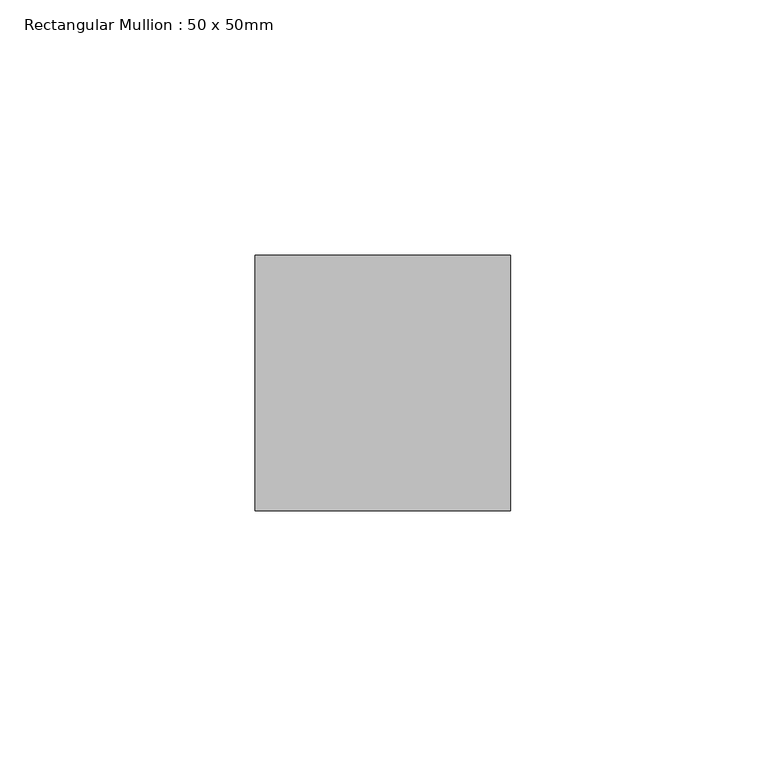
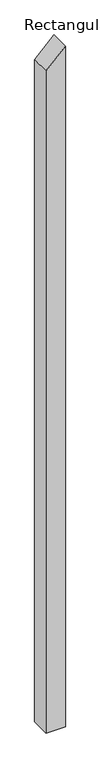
"""IFC4 building model written with IfcOpenShell, lengths in millimetres: member geometry, Rectangular Mullion : 50 x 50mm."""

from ifc_helpers import new_model, si_unit, frame, origin, place, context, project, spatial, polyline, outline, extrude, source, transform, mapped, element, save


def rectangular_mullion_50_x_50mm_df29dcbb(model_context):
    return source(origin(), model_context, "Body", "SweptSolid", [
        extrude(outline(polyline([(0.0, 0.0), (-50.0000036, -50.0), (-1849.7466531, -50.0), (-1849.7466531, 0.0), (0.0, 0.0)])), frame((0.0, 0.0, 0.0), z_axis=(0.0, 1.0, 0.0), x_axis=(0.0, 0.0, 1.0)), (0.0, 0.0, 1.0), 50.0),
    ])


if __name__ == "__main__":
    model = new_model("IFC4")
    model_context = context("Model", 3, world=origin())
    ifc_project = project(units=[si_unit("LENGTHUNIT", "METRE", prefix="MILLI")], contexts=[model_context])
    site = spatial("IfcSite", under=ifc_project)
    building = spatial("IfcBuilding", under=site)
    placement = place(None, origin())
    rectangular_mullion_50_x_50mm_shape = rectangular_mullion_50_x_50mm_df29dcbb(model_context)
    element("IfcMember", 1, ObjectType="Rectangular Mullion : 50 x 50mm", at=placement, inside=building, context=model_context, shape_type="MappedRepresentation", body=[
        mapped(rectangular_mullion_50_x_50mm_shape, transform((0.0, 0.0, 0.0), x_axis=(1.0, 0.0, 0.0), y_axis=(0.0, 1.0, 0.0), z_axis=(0.0, 0.0, 1.0))),
    ])
    save(model, "model.ifc")
